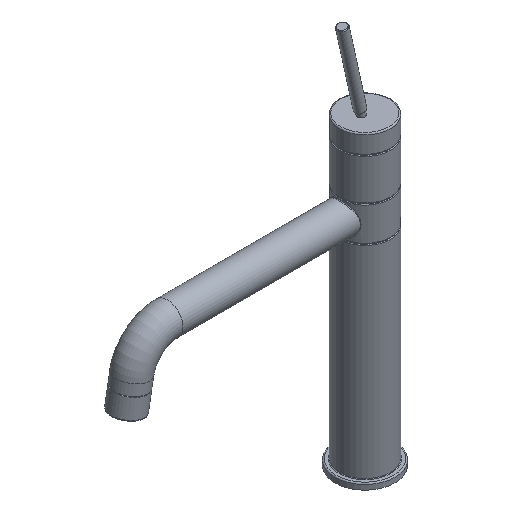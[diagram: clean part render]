
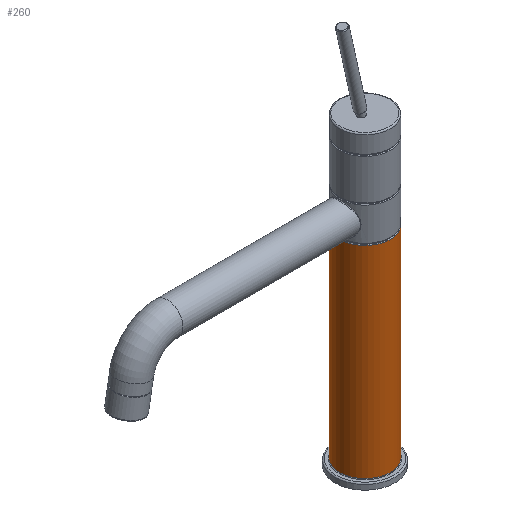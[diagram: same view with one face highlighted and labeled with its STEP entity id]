
A CAD part, isometric view. The second image highlights one B-rep face of the part: STEP entity #260.
In plain terms, the highlighted cylindrical face has radius 21 mm (diameter 42 mm), a full revolution.
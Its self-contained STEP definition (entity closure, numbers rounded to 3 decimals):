
#260=ADVANCED_FACE('',(#1000,#1002),#1004,.T.);
#1000=FACE_OUTER_BOUND('',#1001,.T.);
#1001=EDGE_LOOP('',(#1235));
#1002=FACE_OUTER_BOUND('',#1003,.T.);
#1003=EDGE_LOOP('',(#1236));
#1004=CYLINDRICAL_SURFACE('',#1005,21.);
#1005=AXIS2_PLACEMENT_3D('',#1006,#1007,#1008);
#1006=CARTESIAN_POINT('',(0.,0.,5.));
#1007=DIRECTION('',(0.,0.,1.));
#1008=DIRECTION('',(1.,0.,0.));
#1235=ORIENTED_EDGE('',*,*,#1299,.F.);
#1236=ORIENTED_EDGE('',*,*,#1301,.T.);
#1299=EDGE_CURVE('',#1367,#1367,#1368,.T.);
#1301=EDGE_CURVE('',#1371,#1371,#1372,.T.);
#1367=VERTEX_POINT('',#1649);
#1368=CIRCLE('',#1650,21.);
#1371=VERTEX_POINT('',#1659);
#1372=CIRCLE('',#1660,21.);
#1649=CARTESIAN_POINT('',(21.,0.,173.));
#1650=AXIS2_PLACEMENT_3D('',#1651,#1652,#1653);
#1651=CARTESIAN_POINT('',(0.,0.,173.));
#1652=DIRECTION('',(0.,0.,1.));
#1653=DIRECTION('',(1.,0.,0.));
#1659=CARTESIAN_POINT('',(21.,0.,5.5));
#1660=AXIS2_PLACEMENT_3D('',#1661,#1662,#1663);
#1661=CARTESIAN_POINT('',(0.,0.,5.5));
#1662=DIRECTION('',(0.,0.,1.));
#1663=DIRECTION('',(1.,0.,0.));
